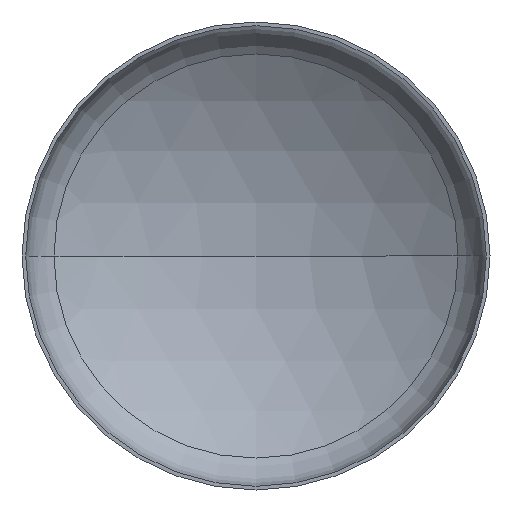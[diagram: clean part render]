
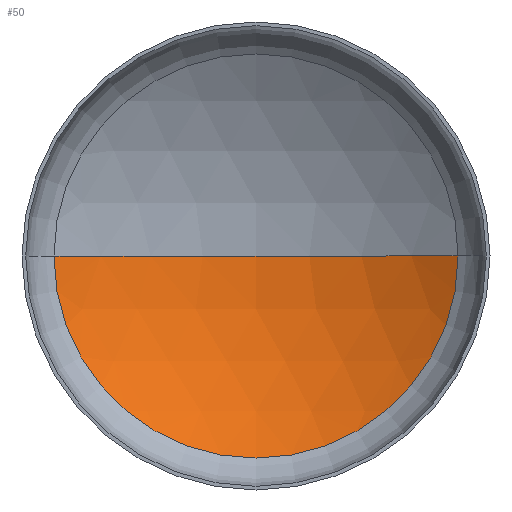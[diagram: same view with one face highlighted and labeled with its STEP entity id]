
A CAD part, front view. The second image highlights one B-rep face of the part: STEP entity #50.
In plain terms, the highlighted spherical face has radius 398.4 mm.
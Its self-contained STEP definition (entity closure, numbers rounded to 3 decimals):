
#2 = CIRCLE ( 'NONE', #207, 398.4 ) ;
#4 = DIRECTION ( 'NONE',  ( -1., 0., 0. ) ) ;
#16 = ORIENTED_EDGE ( 'NONE', *, *, #74, .T. ) ;
#31 = AXIS2_PLACEMENT_3D ( 'NONE', #42, #170, #305 ) ;
#42 = CARTESIAN_POINT ( 'NONE',  ( 0., -272.4, 0. ) ) ;
#50 = ADVANCED_FACE ( 'NONE', ( #164 ), #307, .F. ) ;
#51 = DIRECTION ( 'NONE',  ( 0., 0., 1. ) ) ;
#63 = EDGE_LOOP ( 'NONE', ( #92, #16, #262 ) ) ;
#74 = EDGE_CURVE ( 'NONE', #294, #130, #202, .T. ) ;
#92 = ORIENTED_EDGE ( 'NONE', *, *, #114, .F. ) ;
#104 = AXIS2_PLACEMENT_3D ( 'NONE', #253, #284, #4 ) ;
#114 = EDGE_CURVE ( 'NONE', #294, #201, #274, .T. ) ;
#130 = VERTEX_POINT ( 'NONE', #186 ) ;
#138 = CARTESIAN_POINT ( 'NONE',  ( 0., -272.4, 0. ) ) ;
#161 = CARTESIAN_POINT ( 'NONE',  ( 0., -272.4, 0. ) ) ;
#164 = FACE_OUTER_BOUND ( 'NONE', #63, .T. ) ;
#170 = DIRECTION ( 'NONE',  ( 0., 0., 1. ) ) ;
#186 = CARTESIAN_POINT ( 'NONE',  ( 0., 126., 0. ) ) ;
#193 = EDGE_CURVE ( 'NONE', #201, #130, #2, .T. ) ;
#201 = VERTEX_POINT ( 'NONE', #308 ) ;
#202 = CIRCLE ( 'NONE', #31, 398.4 ) ;
#207 = AXIS2_PLACEMENT_3D ( 'NONE', #138, #210, #337 ) ;
#210 = DIRECTION ( 'NONE',  ( 0., 0., -1. ) ) ;
#253 = CARTESIAN_POINT ( 'NONE',  ( 0., 60.179, 0. ) ) ;
#262 = ORIENTED_EDGE ( 'NONE', *, *, #193, .F. ) ;
#274 = CIRCLE ( 'NONE', #104, 219.349 ) ;
#284 = DIRECTION ( 'NONE',  ( 0., 1., 0. ) ) ;
#294 = VERTEX_POINT ( 'NONE', #393 ) ;
#305 = DIRECTION ( 'NONE',  ( 1., 0., 0. ) ) ;
#307 = SPHERICAL_SURFACE ( 'NONE', #377, 398.4 ) ;
#308 = CARTESIAN_POINT ( 'NONE',  ( -219.349, 60.179, 0. ) ) ;
#335 = DIRECTION ( 'NONE',  ( -1., 0., 0. ) ) ;
#337 = DIRECTION ( 'NONE',  ( -1., 0., 0. ) ) ;
#377 = AXIS2_PLACEMENT_3D ( 'NONE', #161, #51, #335 ) ;
#393 = CARTESIAN_POINT ( 'NONE',  ( 219.349, 60.179, 0. ) ) ;
